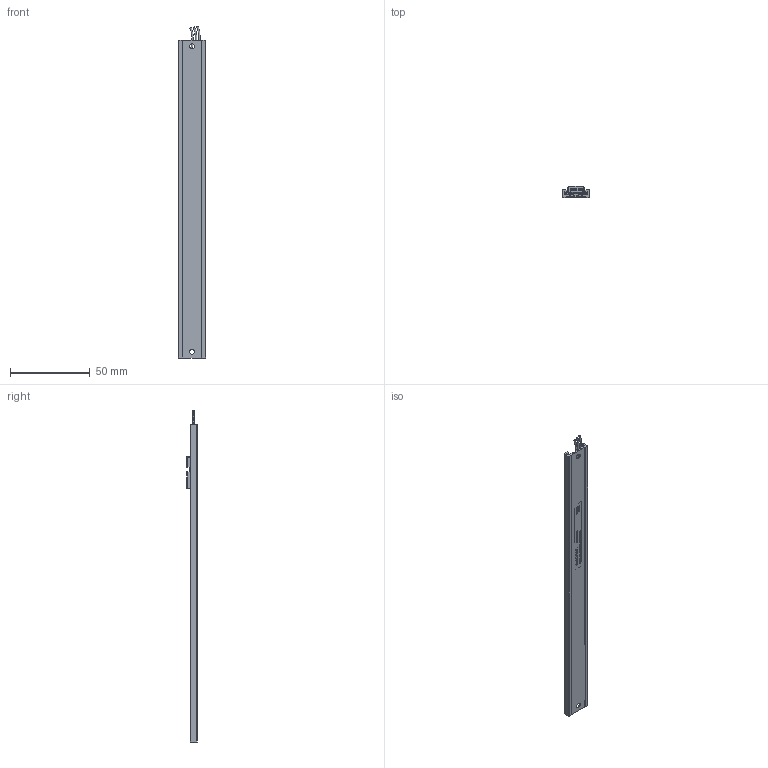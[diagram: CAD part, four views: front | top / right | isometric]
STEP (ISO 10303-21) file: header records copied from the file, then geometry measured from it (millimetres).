
FILE_DESCRIPTION (( 'STEP AP214' ), '1' );
FILE_NAME ('MBX_150.STEP', '2016-11-28T08:19:34', ( '' ), ( '' ), 'SwSTEP 2.0', 'SolidWorks 2016', '' );
FILE_SCHEMA (( 'AUTOMOTIVE_DESIGN' ));
Length unit declared in the file: millimetre
Products named in the file (8): Label 50x6-Vorlage; kabel_dummy_mbx; MBW Resistor 150; MBW-Schiene 200-150; MBX_Elero_Schleiferträger_Komp_Heraeus Schleifer eingefedert; 32.001.02.hlf.clip_mit Klemme; 32.001.02.hlf.slider_mit Klemme; MBX_150
Assembly tree (7 placements, depth 3):
  MBX_150
    MBX_Elero_Schleiferträger_Komp_Heraeus Schleifer eingefedert
      32.001.02.hlf.slider_mit Klemme
      32.001.02.hlf.clip_mit Klemme
    MBW-Schiene 200-150
    MBW Resistor 150
    kabel_dummy_mbx
    Label 50x6-Vorlage
Bounding box: 17 x 6.68 x 208.82 mm (x, y, z)
Volume: 8755.7 mm3; surface area: 16301.7 mm2
Topology: 8 solids, 8 shells, 1370 faces, 3723 edges, 2425 vertices
Faces by surface type: plane 879, bspline 303, cylinder 157, sphere 18, torus 8, cone 5
Entity records: 61816 total; most frequent: CARTESIAN_POINT 17977, ORIENTED_EDGE 7410, DIRECTION 5522, EDGE_CURVE 3705, VECTOR 2752, LINE 2752, VERTEX_POINT 2425, EDGE_LOOP 1452
